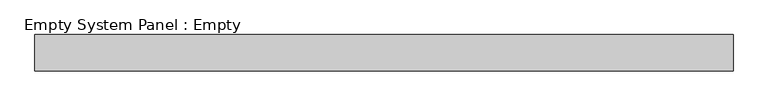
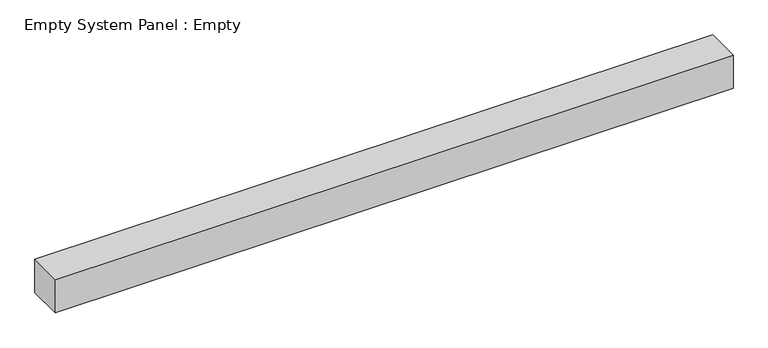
"""IFC4 building model written with IfcOpenShell, lengths in millimetres: plate geometry, Empty System Panel : Empty."""

import ifcopenshell
import ifcopenshell.guid

model = None  # the IFC model being written
_history = None  # IfcOwnerHistory: only IFC2X3 demands one
_inside = {}  # id of a spatial element -> (the spatial element, [elements in it])
_under = {}  # id of a project, library or spatial element -> (it, [spatial elements below it])
_declared = {}  # id of a project -> (the project, [libraries it declares])
_typed = {}  # id of a type object -> (the type object, [elements of that type])
_made_of = {}  # id of a material, layer set ... -> (it, [elements and type objects made of it])


def new_model(schema):
    """Start an empty IFC model of exactly this schema.

    Asked for "IFC4X3", IfcOpenShell would pick the latest addendum, in which some entities
    have other attributes; the version numbers below select the first issue.
    IFC2X3 requires an IfcOwnerHistory on every rooted entity: one is made here for all.
    """
    global model, _history
    if schema == "IFC4X3":
        model = ifcopenshell.file(schema_version=(4, 3, 0, 0))
    else:
        model = ifcopenshell.file(schema=schema)
    _inside.clear()
    _under.clear()
    _declared.clear()
    _typed.clear()
    _made_of.clear()
    _history = None
    if model.schema == "IFC2X3":
        org = make("IfcOrganization", Name="unknown")
        user = make(
            "IfcPersonAndOrganization",
            ThePerson=make("IfcPerson", FamilyName="unknown"),
            TheOrganization=org,
        )
        app = make(
            "IfcApplication",
            ApplicationDeveloper=org,
            Version="unknown",
            ApplicationFullName="unknown",
            ApplicationIdentifier="unknown",
        )
        _history = make(
            "IfcOwnerHistory",
            OwningUser=user,
            OwningApplication=app,
            ChangeAction="ADDED",
            CreationDate=0,
        )
    return model


def make(cls, **values):
    """One entity of the class cls with the attributes given. An attribute that is None is left unset."""
    return model.create_entity(
        cls, **{name: value for name, value in values.items() if value is not None}
    )


def rooted(cls, **values):
    """An entity with a GlobalId (a new one), such as an element, a storey or a relation."""
    return make(cls, GlobalId=ifcopenshell.guid.new(), OwnerHistory=_history, **values)


def si_unit(unit_type, name, prefix=None):
    """IfcSIUnit, for example si_unit("LENGTHUNIT", "METRE", prefix="MILLI")."""
    return make("IfcSIUnit", UnitType=unit_type, Prefix=prefix, Name=name)


def assignment(units):
    """IfcUnitAssignment: the units of a project."""
    return None if units is None else make("IfcUnitAssignment", Units=units)


def point(xyz):
    """IfcCartesianPoint."""
    return None if xyz is None else make("IfcCartesianPoint", Coordinates=xyz)


def direction(xyz):
    """IfcDirection."""
    return None if xyz is None else make("IfcDirection", DirectionRatios=xyz)


def frame(location, z_axis=None, x_axis=None):
    """IfcAxis2Placement3D, a coordinate frame: its origin and axes. An axis left out is left unset."""
    return make(
        "IfcAxis2Placement3D",
        Location=point(location),
        Axis=direction(z_axis),
        RefDirection=direction(x_axis),
    )


def origin():
    """The frame at (0, 0, 0) with its axes left unset."""
    return frame((0.0, 0.0, 0.0))


def origin_with_axes():
    """The frame at (0, 0, 0) with the z axis (0, 0, 1) and the x axis (1, 0, 0) written out."""
    return frame((0.0, 0.0, 0.0), z_axis=(0.0, 0.0, 1.0), x_axis=(1.0, 0.0, 0.0))


def place(relative_to, where):
    """IfcLocalPlacement: puts the frame where relative to a parent placement (None: the world)."""
    return make(
        "IfcLocalPlacement", PlacementRelTo=relative_to, RelativePlacement=where
    )


def context(
    kind, dimensions, precision=None, world=None, true_north=None, identifier=None
):
    """IfcGeometricRepresentationContext, for example the 3D "Model" context."""
    return make(
        "IfcGeometricRepresentationContext",
        ContextIdentifier=identifier,
        ContextType=kind,
        CoordinateSpaceDimension=dimensions,
        Precision=precision,
        WorldCoordinateSystem=world,
        TrueNorth=true_north,
    )


def project(units=None, contexts=None):
    """IfcProject with its units and contexts."""
    return rooted(
        "IfcProject",
        Name="project",
        RepresentationContexts=contexts,
        UnitsInContext=assignment(units),
    )


def spatial(cls, under=None, at=None, **own):
    """A site, building, storey or space (cls), placed at a placement, below another one or the project."""
    s = rooted(cls, ObjectPlacement=at, **own)
    if under is not None:
        _under.setdefault(under.id(), (under, []))[1].append(s)
    return s


def polyline(points):
    """IfcPolyline through the points."""
    return make("IfcPolyline", Points=[point(p) for p in points])


def outline(outer, holes=None, kind="AREA"):
    """IfcArbitraryClosedProfileDef: a profile drawn as a closed curve; with holes, ...WithVoids."""
    if holes is None:
        return make("IfcArbitraryClosedProfileDef", ProfileType=kind, OuterCurve=outer)
    return make(
        "IfcArbitraryProfileDefWithVoids",
        ProfileType=kind,
        OuterCurve=outer,
        InnerCurves=holes,
    )


def extrude(swept, where, along, depth):
    """IfcExtrudedAreaSolid: the profile swept, set in the frame where, extruded along a direction by depth."""
    return make(
        "IfcExtrudedAreaSolid",
        SweptArea=swept,
        Position=where,
        ExtrudedDirection=direction(along),
        Depth=depth,
    )


def shape(context_of_items, identifier, shape_type, items):
    """IfcShapeRepresentation: the items that make up one representation, for example the "Body"."""
    return make(
        "IfcShapeRepresentation",
        ContextOfItems=context_of_items,
        RepresentationIdentifier=identifier,
        RepresentationType=shape_type,
        Items=items,
    )


def source(mapping_origin, context_of_items, identifier, shape_type, items):
    """IfcRepresentationMap: a shape defined once, which mapped items show again and again."""
    return make(
        "IfcRepresentationMap",
        MappingOrigin=mapping_origin,
        MappedRepresentation=shape(context_of_items, identifier, shape_type, items),
    )


def transform(
    local_origin,
    x_axis=None,
    y_axis=None,
    z_axis=None,
    scale=None,
    scale2=None,
    scale3=None,
    uniform=True,
):
    """IfcCartesianTransformationOperator3D, or its non-uniform kind. x_axis, y_axis, z_axis: its Axis1, 2, 3."""
    if uniform:
        return make(
            "IfcCartesianTransformationOperator3D",
            Axis1=direction(x_axis),
            Axis2=direction(y_axis),
            LocalOrigin=point(local_origin),
            Scale=scale,
            Axis3=direction(z_axis),
        )
    return make(
        "IfcCartesianTransformationOperator3DnonUniform",
        Axis1=direction(x_axis),
        Axis2=direction(y_axis),
        LocalOrigin=point(local_origin),
        Scale=scale,
        Axis3=direction(z_axis),
        Scale2=scale2,
        Scale3=scale3,
    )


def mapped(mapping_source, mapping_target):
    """IfcMappedItem: shows the shape of a source again, moved by a transform."""
    return make(
        "IfcMappedItem", MappingSource=mapping_source, MappingTarget=mapping_target
    )


def made_of(thing, what):
    """Note that an element or type object is made of a material, layer set ...; save() writes the relation."""
    if what is not None:
        _made_of.setdefault(what.id(), (what, []))[1].append(thing)
    return thing


def element(
    cls,
    number,
    at=None,
    inside=None,
    cuts=None,
    type_object=None,
    material=None,
    context=None,
    identifier="Body",
    shape_type=None,
    held_by="IfcProductDefinitionShape",
    body=None,
    shapes=None,
    **own,
):
    """One element of the class cls, such as IfcWall. Its Tag is "e" and its number.

    at: its placement. inside: the storey or other place that contains it. cuts: it is an
    opening in that element (IfcRelVoidsElement). A single representation is given by context,
    identifier, shape_type and body (its items); several are given by shapes. held_by: the class
    of the entity that holds the representations. save() writes the other relations.
    """
    e = rooted(cls, Tag="e%d" % number, ObjectPlacement=at, **own)
    if body is not None:
        shapes = [shape(context, identifier, shape_type, body)]
    if shapes is not None:
        e.Representation = make(held_by, Representations=shapes)
    if inside is not None:
        _inside.setdefault(inside.id(), (inside, []))[1].append(e)
    if cuts is not None:
        rooted(
            "IfcRelVoidsElement", RelatingBuildingElement=cuts, RelatedOpeningElement=e
        )
    if type_object is not None:
        _typed.setdefault(type_object.id(), (type_object, []))[1].append(e)
    return made_of(e, material)


def aggregate(whole, parts):
    """IfcRelAggregates: a whole, such as a stair, and the parts it consists of."""
    return rooted("IfcRelAggregates", RelatingObject=whole, RelatedObjects=parts)


def save(model, path):
    """Write the relations noted so far, then the file.

    IfcRelAggregates (storeys below a building ...), IfcRelContainedInSpatialStructure (elements
    in a storey), IfcRelDefinesByType, IfcRelAssociatesMaterial and IfcRelDeclares: one each for
    every whole, place, type object, material and project.
    """
    for whole, parts in _under.values():
        aggregate(whole, parts)
    for where, things in _inside.values():
        rooted(
            "IfcRelContainedInSpatialStructure",
            RelatedElements=things,
            RelatingStructure=where,
        )
    for kind, things in _typed.values():
        rooted("IfcRelDefinesByType", RelatedObjects=things, RelatingType=kind)
    for what, things in _made_of.values():
        rooted("IfcRelAssociatesMaterial", RelatedObjects=things, RelatingMaterial=what)
    for by, libraries in _declared.values():
        rooted("IfcRelDeclares", RelatingContext=by, RelatedDefinitions=libraries)
    model.write(path)


def empty_system_panel_empty_20ea7497(model_context):
    return source(origin(), model_context, "Body", "SweptSolid", [
        extrude(outline(polyline([(962.5, -50.0), (-962.5, -50.0), (-962.5, 50.0), (962.5, 50.0), (962.5, -50.0)])), origin_with_axes(), (0.0, 0.0, 1.0), 100.0),
    ])


if __name__ == "__main__":
    model = new_model("IFC4")
    model_context = context("Model", 3, world=origin())
    ifc_project = project(units=[si_unit("LENGTHUNIT", "METRE", prefix="MILLI")], contexts=[model_context])
    site = spatial("IfcSite", under=ifc_project)
    building = spatial("IfcBuilding", under=site)
    placement = place(None, origin())
    empty_system_panel_empty_shape = empty_system_panel_empty_20ea7497(model_context)
    element("IfcPlate", 1, ObjectType="Empty System Panel : Empty", at=placement, inside=building, context=model_context, shape_type="MappedRepresentation", body=[
        mapped(empty_system_panel_empty_shape, transform((0.0, 0.0, 0.0), x_axis=(1.0, 0.0, 0.0), y_axis=(0.0, 1.0, 0.0), z_axis=(0.0, 0.0, 1.0))),
    ])
    save(model, "model.ifc")
